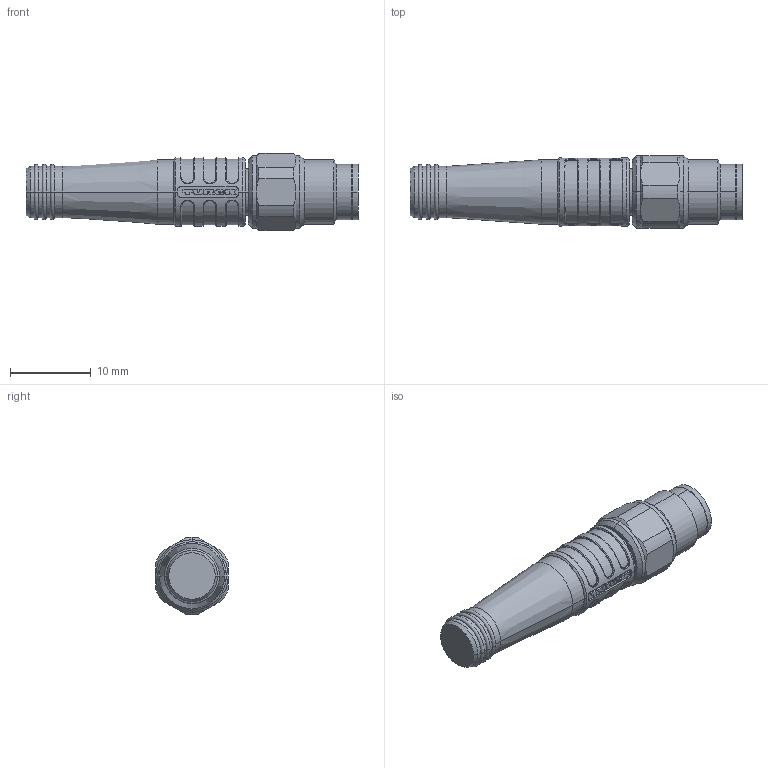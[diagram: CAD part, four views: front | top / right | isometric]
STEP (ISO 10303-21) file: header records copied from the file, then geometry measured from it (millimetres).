
FILE_DESCRIPTION (( 'STEP AP203' ), '1' );
FILE_NAME ('PSGV_M.step', '2014-09-09T13:43:20', ( 'Turck User' ), ( '' ), 'SwSTEP 2.0', 'SolidWorks 2014', '' );
FILE_SCHEMA (( 'CONFIG_CONTROL_DESIGN' ));
Length unit declared in the file: millimetre
Products named in the file (1): PSGV_M
Bounding box: 41.2 x 9 x 9.6 mm (x, y, z)
Volume: 1799.8 mm3; surface area: 1813.9 mm2
Topology: 1 solids, 1 shells, 534 faces, 1446 edges, 937 vertices
Faces by surface type: plane 403, cylinder 65, cone 34, torus 20, bspline 12
Entity records: 17716 total; most frequent: CARTESIAN_POINT 4290, ORIENTED_EDGE 2892, DIRECTION 2565, EDGE_CURVE 1446, LINE 1189, VECTOR 1189, VERTEX_POINT 937, AXIS2_PLACEMENT_3D 688
